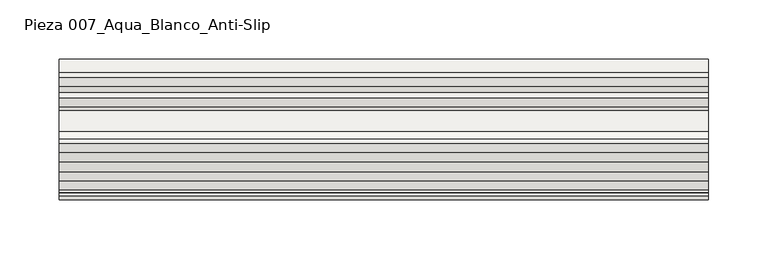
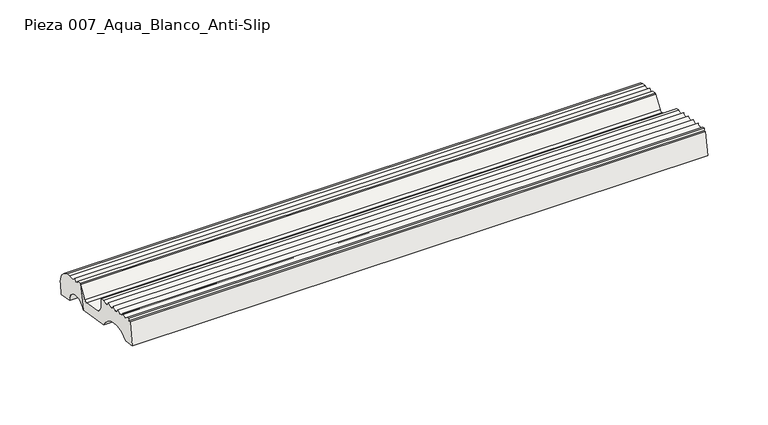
"""IFC4 building model written with IfcOpenShell, lengths in millimetres: slab geometry, ROSA GRES_007 (ref. RS912) : Pieza 007_Aqua_Blanco_Anti-Slip."""

from ifc_helpers import new_model, si_unit, point, frame, frame_2d, origin, place, context, project, spatial, polyline, circle_curve, trimmed, segment, composite_curve, outline, extrude, source, transform, mapped, element, save


def pieza_007_aqua_blanco_anti_slip_b171d28c(model_context):
    return source(origin(), model_context, "Body", "SweptSolid", [
        extrude(outline(composite_curve([segment(trimmed(circle_curve(frame_2d((-271.2823988, 193.2374304)), 11.6464304), [point((-259.6396885, 193.5317744))], [point((-282.2212475, 197.235046))], True, "CARTESIAN"), True, "CONTINUOUS"), segment(polyline([(-282.2212475, 197.235046), (-276.9519891, 221.1883788), (-273.0494054, 220.5483947)]), True, "CONTINUOUS"), segment(trimmed(circle_curve(frame_2d((-270.4401027, 221.3277548)), 2.7232081), [point((-273.0494054, 220.5483947))], [point((-267.8189804, 220.5891206))], True, "CARTESIAN"), True, "CONTINUOUS"), segment(trimmed(circle_curve(frame_2d((-263.2354237, 222.368262)), 4.9167404), [point((-267.8189804, 220.5891206))], [point((-260.1734423, 218.5213664))], True, "CARTESIAN"), True, "CONTINUOUS"), segment(polyline([(-260.1734423, 218.5213664), (-256.050293, 217.8804547)]), True, "CONTINUOUS"), segment(trimmed(circle_curve(frame_2d((-259.6470046, 203.0348753)), 15.2750633), [point((-256.050293, 217.8804547))], [point((-244.5732963, 200.5628566))], False, "CARTESIAN"), True, "CONTINUOUS"), segment(polyline([(-244.5732963, 200.5628566), (-246.090753, 191.3098114), (-259.6396885, 193.5317744)]), True, "CONTINUOUS")], self_intersect=False)), frame((0.0, 0.0, 0.0), z_axis=(1.0, 0.0, 0.0), x_axis=(0.0, 1.0, 0.0)), (0.0, 0.0, 1.0), 550.0),
        extrude(outline(composite_curve([segment(trimmed(circle_curve(frame_2d((-336.7370405, 192.845102)), 22.5372595), [point((-316.5462035, 202.8580021))], [point((-352.6777362, 208.7769031))], True, "CARTESIAN"), True, "CONTINUOUS"), segment(polyline([(-352.6777362, 208.7769031), (-363.5171958, 210.5525735), (-359.9121733, 232.5591901), (-357.9843942, 232.2433907), (-357.6163107, 234.4903454), (-355.3558235, 234.1199622)]), True, "CONTINUOUS"), segment(trimmed(circle_curve(frame_2d((-351.1843269, 236.5760467)), 4.8408403), [point((-355.3558235, 234.1199622))], [point((-347.6033911, 233.3186501))], True, "CARTESIAN"), True, "CONTINUOUS"), segment(trimmed(circle_curve(frame_2d((-343.1490307, 235.2775143)), 4.8660534), [point((-347.6033911, 233.3186501))], [point((-339.537411, 232.0164288))], True, "CARTESIAN"), True, "CONTINUOUS"), segment(trimmed(circle_curve(frame_2d((-335.2061427, 233.5225529)), 4.5856619), [point((-339.537411, 232.0164288))], [point((-331.5697548, 230.7288138))], True, "CARTESIAN"), True, "CONTINUOUS"), segment(trimmed(circle_curve(frame_2d((-327.2300525, 232.2104611)), 4.5856619), [point((-331.5697548, 230.7288138))], [point((-323.5936646, 229.416722))], True, "CARTESIAN"), True, "CONTINUOUS"), segment(trimmed(circle_curve(frame_2d((-319.2539623, 230.8983694)), 4.5856619), [point((-323.5936646, 229.416722))], [point((-316.0713373, 227.5969768))], True, "CARTESIAN"), True, "CONTINUOUS"), segment(polyline([(-316.0713373, 227.5969768), (-312.3840488, 226.9929422), (-312.4471257, 221.8305741)]), True, "CONTINUOUS"), segment(trimmed(circle_curve(frame_2d((-300.174547, 221.6806205)), 12.2734948), [point((-312.4471257, 221.8305741))], [point((-305.8836599, 210.8157825))], True, "CARTESIAN"), True, "CONTINUOUS"), segment(polyline([(-305.8836599, 210.8157825), (-288.0196503, 207.8893828)]), True, "CONTINUOUS"), segment(trimmed(circle_curve(frame_2d((-287.5346684, 210.849922)), 3.0), [point((-288.0196503, 207.8893828))], [point((-285.0171549, 209.2183198))], True, "CARTESIAN"), True, "CONTINUOUS"), segment(trimmed(circle_curve(frame_2d((-347.1444401, 259.7528362)), 80.084561), [point((-285.0171549, 209.2183198))], [point((-276.9561879, 221.189302))], True, "CARTESIAN"), True, "CONTINUOUS"), segment(polyline([(-276.9561879, 221.189302), (-282.2212475, 197.235046), (-316.5462035, 202.8580021)]), True, "CONTINUOUS")], self_intersect=False)), frame((0.0, 0.0, 0.0), z_axis=(1.0, 0.0, 0.0), x_axis=(0.0, 1.0, 0.0)), (0.0, 0.0, 1.0), 550.0),
    ])


if __name__ == "__main__":
    model = new_model("IFC4")
    model_context = context("Model", 3, world=origin())
    ifc_project = project(units=[si_unit("LENGTHUNIT", "METRE", prefix="MILLI")], contexts=[model_context])
    site = spatial("IfcSite", under=ifc_project)
    building = spatial("IfcBuilding", under=site)
    placement = place(None, origin())
    pieza_007_aqua_blanco_anti_slip_shape = pieza_007_aqua_blanco_anti_slip_b171d28c(model_context)
    element("IfcSlab", 1, ObjectType="ROSA GRES_007 (ref. RS912) : Pieza 007_Aqua_Blanco_Anti-Slip", at=placement, inside=building, context=model_context, shape_type="MappedRepresentation", body=[
        mapped(pieza_007_aqua_blanco_anti_slip_shape, transform((0.0, 0.0, 0.0), x_axis=(1.0, 0.0, 0.0), y_axis=(0.0, 1.0, 0.0), z_axis=(0.0, 0.0, 1.0))),
    ])
    save(model, "model.ifc")
